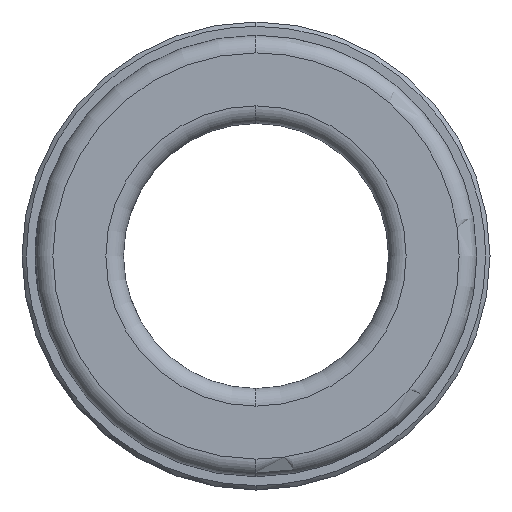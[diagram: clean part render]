
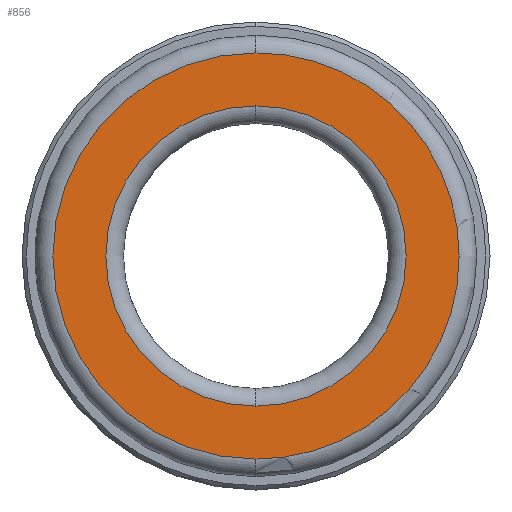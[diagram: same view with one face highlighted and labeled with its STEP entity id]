
A CAD part, left-side view. The second image highlights one B-rep face of the part: STEP entity #856.
In plain terms, the highlighted planar face has unit normal (-1, 0, 0).
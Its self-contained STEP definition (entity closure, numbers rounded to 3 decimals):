
#556=CARTESIAN_POINT('Vertex',(-53.,0.,17.)) ;
#559=CARTESIAN_POINT('Axis2P3D Location',(-53.,0.,0.)) ;
#563=CARTESIAN_POINT('Vertex',(-53.,17.,0.)) ;
#566=CARTESIAN_POINT('Axis2P3D Location',(-53.,0.,0.)) ;
#570=CARTESIAN_POINT('Vertex',(-53.,0.,-17.)) ;
#674=CARTESIAN_POINT('Vertex',(-53.,0.,23.)) ;
#681=CARTESIAN_POINT('Vertex',(-53.,0.,-23.)) ;
#684=CARTESIAN_POINT('Axis2P3D Location',(-53.,0.,0.)) ;
#688=CARTESIAN_POINT('Vertex',(-53.,23.,0.)) ;
#691=CARTESIAN_POINT('Axis2P3D Location',(-53.,0.,0.)) ;
#782=CARTESIAN_POINT('Axis2P3D Location',(-53.,0.,0.)) ;
#786=CARTESIAN_POINT('Vertex',(-53.,-17.,0.)) ;
#789=CARTESIAN_POINT('Axis2P3D Location',(-53.,0.,0.)) ;
#803=CARTESIAN_POINT('Axis2P3D Location',(-53.,23.,0.)) ;
#809=CARTESIAN_POINT('Control Point',(-53.,-23.,0.)) ;
#810=CARTESIAN_POINT('Control Point',(-53.,-23.,-2.114)) ;
#811=CARTESIAN_POINT('Control Point',(-53.,-22.757,-4.229)) ;
#812=CARTESIAN_POINT('Control Point',(-53.,-22.271,-6.306)) ;
#813=CARTESIAN_POINT('Control Point',(-53.,-20.83,-10.312)) ;
#814=CARTESIAN_POINT('Control Point',(-53.,-18.519,-13.886)) ;
#815=CARTESIAN_POINT('Control Point',(-53.,-17.161,-15.532)) ;
#816=CARTESIAN_POINT('Control Point',(-53.,-14.093,-18.483)) ;
#817=CARTESIAN_POINT('Control Point',(-53.,-10.435,-20.661)) ;
#818=CARTESIAN_POINT('Control Point',(-53.,-8.489,-21.534)) ;
#819=CARTESIAN_POINT('Control Point',(-53.,-5.613,-22.443)) ;
#820=CARTESIAN_POINT('Control Point',(-53.,-2.644,-22.873)) ;
#821=CARTESIAN_POINT('Control Point',(-53.,-1.764,-22.958)) ;
#822=CARTESIAN_POINT('Control Point',(-53.,-0.882,-23.)) ;
#823=CARTESIAN_POINT('Control Point',(-53.,0.,-23.)) ;
#824=CARTESIAN_POINT('Vertex',(-53.,-23.,0.)) ;
#828=CARTESIAN_POINT('Control Point',(-53.,0.,23.)) ;
#829=CARTESIAN_POINT('Control Point',(-53.,-2.115,23.)) ;
#830=CARTESIAN_POINT('Control Point',(-53.,-4.229,22.757)) ;
#831=CARTESIAN_POINT('Control Point',(-53.,-6.306,22.271)) ;
#832=CARTESIAN_POINT('Control Point',(-53.,-10.312,20.83)) ;
#833=CARTESIAN_POINT('Control Point',(-53.,-13.886,18.518)) ;
#834=CARTESIAN_POINT('Control Point',(-53.,-15.532,17.161)) ;
#835=CARTESIAN_POINT('Control Point',(-53.,-18.483,14.093)) ;
#836=CARTESIAN_POINT('Control Point',(-53.,-20.661,10.435)) ;
#837=CARTESIAN_POINT('Control Point',(-53.,-21.534,8.489)) ;
#838=CARTESIAN_POINT('Control Point',(-53.,-22.443,5.613)) ;
#839=CARTESIAN_POINT('Control Point',(-53.,-22.873,2.644)) ;
#840=CARTESIAN_POINT('Control Point',(-53.,-22.958,1.764)) ;
#841=CARTESIAN_POINT('Control Point',(-53.,-23.,0.882)) ;
#842=CARTESIAN_POINT('Control Point',(-53.,-23.,0.)) ;
#560=DIRECTION('Axis2P3D Direction',(1.,-0.,0.)) ;
#567=DIRECTION('Axis2P3D Direction',(1.,-0.,0.)) ;
#685=DIRECTION('Axis2P3D Direction',(1.,-0.,0.)) ;
#692=DIRECTION('Axis2P3D Direction',(1.,-0.,0.)) ;
#783=DIRECTION('Axis2P3D Direction',(1.,0.,-0.)) ;
#790=DIRECTION('Axis2P3D Direction',(1.,0.,-0.)) ;
#804=DIRECTION('Axis2P3D Direction',(-1.,0.,0.)) ;
#805=DIRECTION('Axis2P3D XDirection',(0.,0.,1.)) ;
#561=AXIS2_PLACEMENT_3D('Circle Axis2P3D',#559,#560,$) ;
#568=AXIS2_PLACEMENT_3D('Circle Axis2P3D',#566,#567,$) ;
#686=AXIS2_PLACEMENT_3D('Circle Axis2P3D',#684,#685,$) ;
#693=AXIS2_PLACEMENT_3D('Circle Axis2P3D',#691,#692,$) ;
#784=AXIS2_PLACEMENT_3D('Circle Axis2P3D',#782,#783,$) ;
#791=AXIS2_PLACEMENT_3D('Circle Axis2P3D',#789,#790,$) ;
#806=AXIS2_PLACEMENT_3D('Plane Axis2P3D',#803,#804,#805) ;
#845=ORIENTED_EDGE('',*,*,#690,.F.) ;
#846=ORIENTED_EDGE('',*,*,#826,.F.) ;
#847=ORIENTED_EDGE('',*,*,#843,.F.) ;
#848=ORIENTED_EDGE('',*,*,#695,.F.) ;
#851=ORIENTED_EDGE('',*,*,#565,.T.) ;
#852=ORIENTED_EDGE('',*,*,#793,.T.) ;
#853=ORIENTED_EDGE('',*,*,#788,.T.) ;
#854=ORIENTED_EDGE('',*,*,#572,.T.) ;
#855=FACE_BOUND('',#850,.T.) ;
#856=ADVANCED_FACE('FAMO-SF1-D30 x 90',(#849,#855),#807,.T.) ;
#808=B_SPLINE_CURVE_WITH_KNOTS('',5,(#809,#810,#811,#812,#813,#814,#815,#816,#817,#818,#819,#820,#821,#822,#823),.UNSPECIFIED.,.F.,.U.,(6,3,3,3,6),(0.,14.981,29.962,44.944,51.194),.UNSPECIFIED.) ;
#827=B_SPLINE_CURVE_WITH_KNOTS('',5,(#828,#829,#830,#831,#832,#833,#834,#835,#836,#837,#838,#839,#840,#841,#842),.UNSPECIFIED.,.F.,.U.,(6,3,3,3,6),(0.,14.979,29.957,44.936,51.185),.UNSPECIFIED.) ;
#562=CIRCLE('generated circle',#561,17.) ;
#569=CIRCLE('generated circle',#568,17.) ;
#687=CIRCLE('generated circle',#686,23.) ;
#694=CIRCLE('generated circle',#693,23.) ;
#785=CIRCLE('generated circle',#784,17.) ;
#792=CIRCLE('generated circle',#791,17.) ;
#565=EDGE_CURVE('',#564,#557,#562,.T.) ;
#572=EDGE_CURVE('',#571,#564,#569,.T.) ;
#690=EDGE_CURVE('',#682,#689,#687,.T.) ;
#695=EDGE_CURVE('',#689,#675,#694,.T.) ;
#788=EDGE_CURVE('',#787,#571,#785,.T.) ;
#793=EDGE_CURVE('',#557,#787,#792,.T.) ;
#826=EDGE_CURVE('',#825,#682,#808,.T.) ;
#843=EDGE_CURVE('',#675,#825,#827,.T.) ;
#844=EDGE_LOOP('',(#845,#846,#847,#848)) ;
#850=EDGE_LOOP('',(#851,#852,#853,#854)) ;
#849=FACE_OUTER_BOUND('',#844,.T.) ;
#807=PLANE('Plane',#806) ;
#557=VERTEX_POINT('',#556) ;
#564=VERTEX_POINT('',#563) ;
#571=VERTEX_POINT('',#570) ;
#675=VERTEX_POINT('',#674) ;
#682=VERTEX_POINT('',#681) ;
#689=VERTEX_POINT('',#688) ;
#787=VERTEX_POINT('',#786) ;
#825=VERTEX_POINT('',#824) ;
